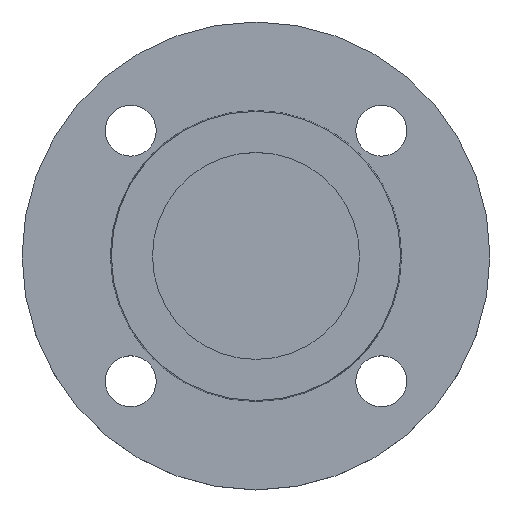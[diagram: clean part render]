
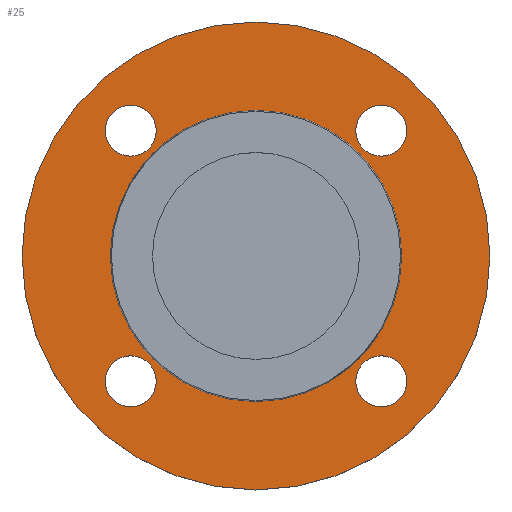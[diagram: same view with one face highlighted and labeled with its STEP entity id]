
A CAD part, top view. The second image highlights one B-rep face of the part: STEP entity #25.
In plain terms, the highlighted planar face has unit normal (0, 0, 1).
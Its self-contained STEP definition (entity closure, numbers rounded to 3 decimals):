
#16 = AXIS2_PLACEMENT_3D ( 'NONE', #42, #76, #153 ) ;
#17 = AXIS2_PLACEMENT_3D ( 'NONE', #357, #358, #359 ) ;
#18 = CIRCLE ( 'NONE', #22, 9. ) ;
#22 = AXIS2_PLACEMENT_3D ( 'NONE', #360, #361, #362 ) ;
#25 = ADVANCED_FACE ( 'NONE', ( #350, #351, #352, #353, #354, #355 ), #356, .T. ) ;
#28 = EDGE_CURVE ( 'NONE', #236, #279, #18, .T. ) ;
#30 = EDGE_CURVE ( 'NONE', #259, #260, #36, .T. ) ;
#36 = CIRCLE ( 'NONE', #39, 9. ) ;
#39 = AXIS2_PLACEMENT_3D ( 'NONE', #370, #371, #372 ) ;
#40 = CIRCLE ( 'NONE', #51, 9. ) ;
#42 = CARTESIAN_POINT ( 'NONE',  ( 0., 0., -2. ) ) ;
#44 = AXIS2_PLACEMENT_3D ( 'NONE', #542, #543, #544 ) ;
#51 = AXIS2_PLACEMENT_3D ( 'NONE', #374, #375, #377 ) ;
#53 = EDGE_CURVE ( 'NONE', #260, #259, #40, .T. ) ;
#56 = CIRCLE ( 'NONE', #58, 9. ) ;
#58 = AXIS2_PLACEMENT_3D ( 'NONE', #395, #396, #397 ) ;
#62 = CIRCLE ( 'NONE', #64, 51.353 ) ;
#64 = AXIS2_PLACEMENT_3D ( 'NONE', #404, #405, #406 ) ;
#75 = CIRCLE ( 'NONE', #79, 51.353 ) ;
#76 = DIRECTION ( 'NONE',  ( 0., 0., -1. ) ) ;
#78 = EDGE_CURVE ( 'NONE', #264, #252, #56, .T. ) ;
#79 = AXIS2_PLACEMENT_3D ( 'NONE', #420, #421, #423 ) ;
#86 = CIRCLE ( 'NONE', #94, 9. ) ;
#87 = EDGE_CURVE ( 'NONE', #296, #287, #62, .T. ) ;
#94 = AXIS2_PLACEMENT_3D ( 'NONE', #435, #436, #437 ) ;
#101 = CIRCLE ( 'NONE', #104, 9. ) ;
#104 = AXIS2_PLACEMENT_3D ( 'NONE', #443, #444, #445 ) ;
#116 = EDGE_CURVE ( 'NONE', #287, #296, #75, .T. ) ;
#117 = VERTEX_POINT ( 'NONE', #424 ) ;
#151 = ORIENTED_EDGE ( 'NONE', *, *, #316, .T. ) ;
#153 = DIRECTION ( 'NONE',  ( -1., 0., 0. ) ) ;
#159 = ORIENTED_EDGE ( 'NONE', *, *, #329, .T. ) ;
#160 = ORIENTED_EDGE ( 'NONE', *, *, #203, .T. ) ;
#161 = ORIENTED_EDGE ( 'NONE', *, *, #28, .T. ) ;
#162 = ORIENTED_EDGE ( 'NONE', *, *, #78, .T. ) ;
#164 = ORIENTED_EDGE ( 'NONE', *, *, #214, .T. ) ;
#165 = ORIENTED_EDGE ( 'NONE', *, *, #30, .T. ) ;
#166 = ORIENTED_EDGE ( 'NONE', *, *, #53, .T. ) ;
#167 = ORIENTED_EDGE ( 'NONE', *, *, #87, .T. ) ;
#168 = ORIENTED_EDGE ( 'NONE', *, *, #116, .T. ) ;
#169 = ORIENTED_EDGE ( 'NONE', *, *, #593, .F. ) ;
#170 = ORIENTED_EDGE ( 'NONE', *, *, #562, .F. ) ;
#182 = CIRCLE ( 'NONE', #265, 9. ) ;
#203 = EDGE_CURVE ( 'NONE', #117, #256, #86, .T. ) ;
#214 = EDGE_CURVE ( 'NONE', #252, #264, #101, .T. ) ;
#219 = CARTESIAN_POINT ( 'NONE',  ( 0., 0., -2. ) ) ;
#220 = DIRECTION ( 'NONE',  ( 0., 0., -1. ) ) ;
#221 = DIRECTION ( 'NONE',  ( -1., 0., 0. ) ) ;
#236 = VERTEX_POINT ( 'NONE', #446 ) ;
#238 = AXIS2_PLACEMENT_3D ( 'NONE', #219, #220, #221 ) ;
#252 = VERTEX_POINT ( 'NONE', #451 ) ;
#256 = VERTEX_POINT ( 'NONE', #456 ) ;
#259 = VERTEX_POINT ( 'NONE', #461 ) ;
#260 = VERTEX_POINT ( 'NONE', #462 ) ;
#264 = VERTEX_POINT ( 'NONE', #467 ) ;
#265 = AXIS2_PLACEMENT_3D ( 'NONE', #529, #530, #532 ) ;
#279 = VERTEX_POINT ( 'NONE', #483 ) ;
#286 = VERTEX_POINT ( 'NONE', #491 ) ;
#287 = VERTEX_POINT ( 'NONE', #492 ) ;
#288 = VERTEX_POINT ( 'NONE', #493 ) ;
#289 = EDGE_LOOP ( 'NONE', ( #169, #170 ) ) ;
#290 = EDGE_LOOP ( 'NONE', ( #165, #166 ) ) ;
#296 = VERTEX_POINT ( 'NONE', #502 ) ;
#308 = EDGE_LOOP ( 'NONE', ( #167, #168 ) ) ;
#310 = EDGE_LOOP ( 'NONE', ( #162, #164 ) ) ;
#315 = EDGE_LOOP ( 'NONE', ( #160, #159 ) ) ;
#316 = EDGE_CURVE ( 'NONE', #279, #236, #182, .T. ) ;
#324 = CIRCLE ( 'NONE', #16, 82.5 ) ;
#329 = EDGE_CURVE ( 'NONE', #256, #117, #557, .T. ) ;
#333 = EDGE_LOOP ( 'NONE', ( #151, #161 ) ) ;
#350 = FACE_BOUND ( 'NONE', #333, .T. ) ;
#351 = FACE_BOUND ( 'NONE', #315, .T. ) ;
#352 = FACE_BOUND ( 'NONE', #310, .T. ) ;
#353 = FACE_BOUND ( 'NONE', #290, .T. ) ;
#354 = FACE_BOUND ( 'NONE', #308, .T. ) ;
#355 = FACE_OUTER_BOUND ( 'NONE', #289, .T. ) ;
#356 = PLANE ( 'NONE',  #17 ) ;
#357 = CARTESIAN_POINT ( 'NONE',  ( 51.353, 0., -2. ) ) ;
#358 = DIRECTION ( 'NONE',  ( 0., 0., 1. ) ) ;
#359 = DIRECTION ( 'NONE',  ( 1., 0., 0. ) ) ;
#360 = CARTESIAN_POINT ( 'NONE',  ( 44.194, -44.194, -2. ) ) ;
#361 = DIRECTION ( 'NONE',  ( 0., 0., -1. ) ) ;
#362 = DIRECTION ( 'NONE',  ( 1., 0., 0. ) ) ;
#370 = CARTESIAN_POINT ( 'NONE',  ( 44.194, 44.194, -2. ) ) ;
#371 = DIRECTION ( 'NONE',  ( 0., 0., -1. ) ) ;
#372 = DIRECTION ( 'NONE',  ( 1., 0., 0. ) ) ;
#374 = CARTESIAN_POINT ( 'NONE',  ( 44.194, 44.194, -2. ) ) ;
#375 = DIRECTION ( 'NONE',  ( 0., 0., -1. ) ) ;
#377 = DIRECTION ( 'NONE',  ( 1., 0., 0. ) ) ;
#395 = CARTESIAN_POINT ( 'NONE',  ( -44.194, 44.194, -2. ) ) ;
#396 = DIRECTION ( 'NONE',  ( 0., 0., -1. ) ) ;
#397 = DIRECTION ( 'NONE',  ( 1., 0., 0. ) ) ;
#404 = CARTESIAN_POINT ( 'NONE',  ( 0., 0., -2. ) ) ;
#405 = DIRECTION ( 'NONE',  ( 0., 0., -1. ) ) ;
#406 = DIRECTION ( 'NONE',  ( -1., 0., 0. ) ) ;
#420 = CARTESIAN_POINT ( 'NONE',  ( 0., 0., -2. ) ) ;
#421 = DIRECTION ( 'NONE',  ( 0., 0., -1. ) ) ;
#423 = DIRECTION ( 'NONE',  ( -1., 0., 0. ) ) ;
#424 = CARTESIAN_POINT ( 'NONE',  ( -35.194, -44.194, -2. ) ) ;
#435 = CARTESIAN_POINT ( 'NONE',  ( -44.194, -44.194, -2. ) ) ;
#436 = DIRECTION ( 'NONE',  ( 0., 0., -1. ) ) ;
#437 = DIRECTION ( 'NONE',  ( 1., 0., 0. ) ) ;
#443 = CARTESIAN_POINT ( 'NONE',  ( -44.194, 44.194, -2. ) ) ;
#444 = DIRECTION ( 'NONE',  ( 0., 0., -1. ) ) ;
#445 = DIRECTION ( 'NONE',  ( 1., 0., 0. ) ) ;
#446 = CARTESIAN_POINT ( 'NONE',  ( 35.194, -44.194, -2. ) ) ;
#451 = CARTESIAN_POINT ( 'NONE',  ( -53.194, 44.194, -2. ) ) ;
#456 = CARTESIAN_POINT ( 'NONE',  ( -53.194, -44.194, -2. ) ) ;
#461 = CARTESIAN_POINT ( 'NONE',  ( 53.194, 44.194, -2. ) ) ;
#462 = CARTESIAN_POINT ( 'NONE',  ( 35.194, 44.194, -2. ) ) ;
#465 = CIRCLE ( 'NONE', #238, 82.5 ) ;
#467 = CARTESIAN_POINT ( 'NONE',  ( -35.194, 44.194, -2. ) ) ;
#483 = CARTESIAN_POINT ( 'NONE',  ( 53.194, -44.194, -2. ) ) ;
#491 = CARTESIAN_POINT ( 'NONE',  ( -82.5, 0., -2. ) ) ;
#492 = CARTESIAN_POINT ( 'NONE',  ( 51.353, 0., -2. ) ) ;
#493 = CARTESIAN_POINT ( 'NONE',  ( 82.5, 0., -2. ) ) ;
#502 = CARTESIAN_POINT ( 'NONE',  ( -51.353, 0., -2. ) ) ;
#529 = CARTESIAN_POINT ( 'NONE',  ( 44.194, -44.194, -2. ) ) ;
#530 = DIRECTION ( 'NONE',  ( 0., 0., -1. ) ) ;
#532 = DIRECTION ( 'NONE',  ( 1., 0., 0. ) ) ;
#542 = CARTESIAN_POINT ( 'NONE',  ( -44.194, -44.194, -2. ) ) ;
#543 = DIRECTION ( 'NONE',  ( 0., 0., -1. ) ) ;
#544 = DIRECTION ( 'NONE',  ( 1., 0., 0. ) ) ;
#557 = CIRCLE ( 'NONE', #44, 9. ) ;
#562 = EDGE_CURVE ( 'NONE', #286, #288, #324, .T. ) ;
#593 = EDGE_CURVE ( 'NONE', #288, #286, #465, .T. ) ;
